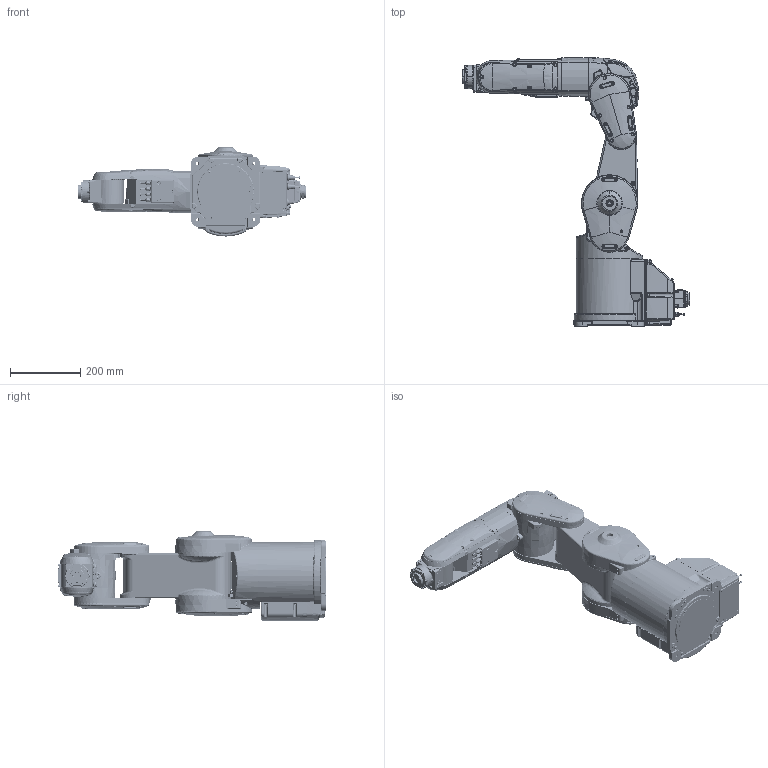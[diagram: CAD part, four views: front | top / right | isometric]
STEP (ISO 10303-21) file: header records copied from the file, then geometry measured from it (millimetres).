
FILE_DESCRIPTION((''),'2;1');
FILE_NAME('RV-4FRL_ASM','2016-12-14T',('1362'),(''),'PRO/ENGINEER BY PARAMETRIC TECHNOLOGY CORPORATION, 2014310','PRO/ENGINEER BY PARAMETRIC TECHNOLOGY CORPORATION, 2014310','');
FILE_SCHEMA(('CONFIG_CONTROL_DESIGN'));
Products named in the file (9): RV-4FL_SKELTON; RV-4FR_BASE; RV-4F_SHOULDER_01; RV-4FL_NO1ARM_02; RV-4F_ELBOW_03; RV-4FL_NO2ARM_04; RV-4F_WRIST_05; RV-4F_HAND_FLANGE_06; RV-4FRL_ASM
Assembly tree (8 placements, depth 2):
  RV-4FRL_ASM
    RV-4FL_SKELTON
    RV-4FR_BASE
    RV-4F_SHOULDER_01
    RV-4FL_NO1ARM_02
    RV-4F_ELBOW_03
    RV-4FL_NO2ARM_04
    RV-4F_WRIST_05
    RV-4F_HAND_FLANGE_06
Bounding box: 648.5 x 764.54 x 254 mm (x, y, z)
Volume: 23461136.9 mm3; surface area: 1165568.5 mm2
Topology: 7 solids, 16 shells, 4327 faces, 10923 edges, 6790 vertices
Faces by surface type: cylinder 1455, plane 1107, bspline 878, torus 404, cone 399, sphere 62, extrusion 17, revolution 5
Entity records: 295490 total; most frequent: CARTESIAN_POINT 199329, ORIENTED_EDGE 21644, DIRECTION 17980, EDGE_CURVE 10822, AXIS2_PLACEMENT_3D 7166, VERTEX_POINT 6790, EDGE_LOOP 4610, FACE_OUTER_BOUND 4327
